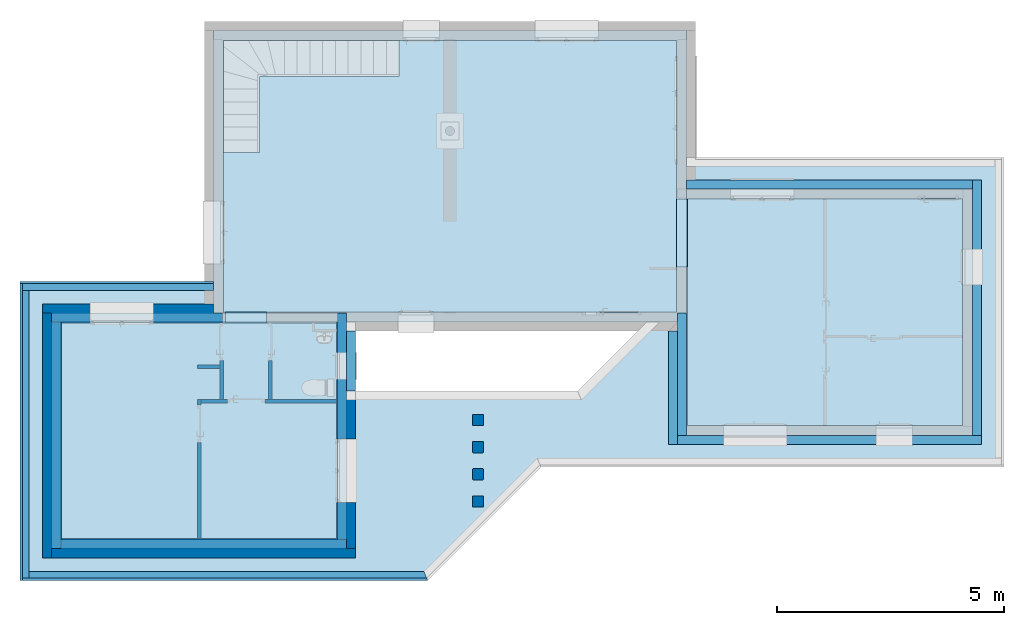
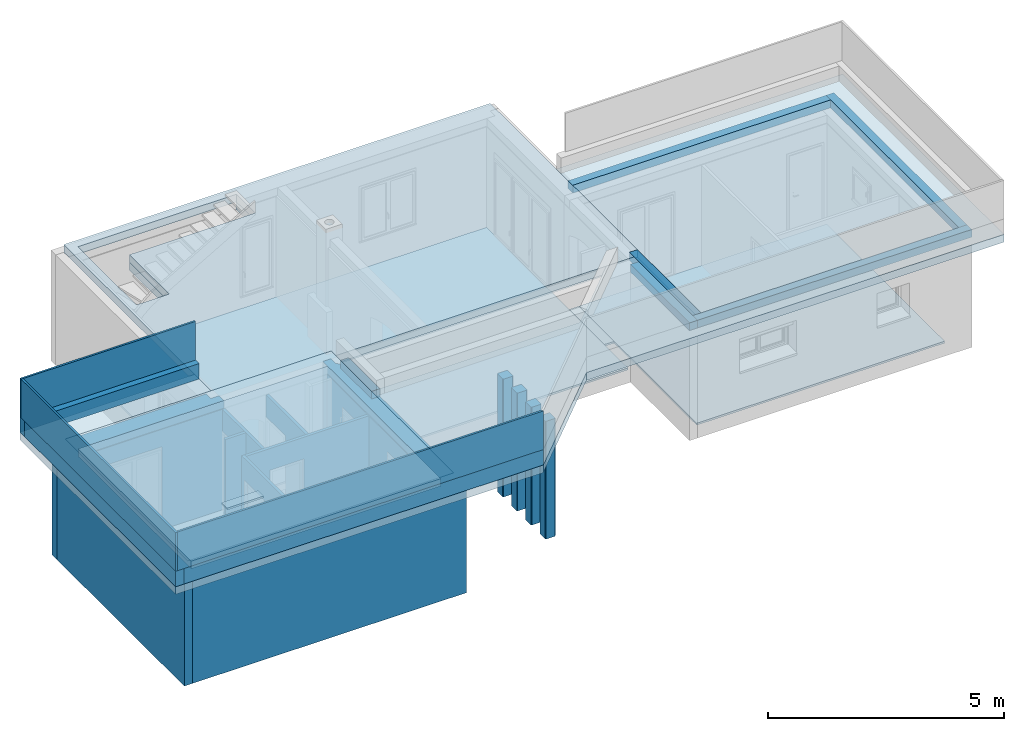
# One storey, part 1 of 16: 18 slabs, 15 walls, 4 columns, 10 openings.
"""IFC4 building model written with IfcOpenShell, lengths in metres."""

from ifc_helpers import new_model, entity, si_unit, converted_unit, frame, frame_2d, origin, origin_with_axes, place, context, subcontext, project, spatial, polyline, rectangle, outline, extrude, clip, bounded_halfspace, material, layer, layer_set, layer_usage, element, save


model = new_model("IFC4")

# Units and contexts
model_context = context("Model", 3, precision=1e-05, world=origin())
body_context = subcontext(model_context, "Body", "Model", "MODEL_VIEW")
ifc_project = project(units=[si_unit("LENGTHUNIT", "METRE"), si_unit("AREAUNIT", "SQUARE_METRE"), si_unit("VOLUMEUNIT", "CUBIC_METRE"), si_unit("MASSUNIT", "GRAM", prefix="KILO"), converted_unit("PLANEANGLEUNIT", "DEGREE", entity("IfcPlaneAngleMeasure", 0.0174532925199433), si_unit("PLANEANGLEUNIT", "RADIAN"), dimensions=[0, 0, 0, 0, 0, 0, 0])], contexts=[model_context])

# Building, storey
building_placement = place(None, origin())
building = spatial("IfcBuilding", under=ifc_project, at=building_placement, Name="Projet de Construction", CompositionType="ELEMENT")
storey_placement = place(building_placement, frame((0.0, 0.0, -0.05)))
storey = spatial("IfcBuildingStorey", under=building, at=storey_placement, Name="RDC", CompositionType="ELEMENT", Elevation=-0.05)

# Columns
ifc_material_1 = material()
column_1_placement = place(storey_placement, frame((-1.3709375, -1.98316848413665, -0.2)))
element("IfcColumn", 1, at=column_1_placement, inside=storey, material=ifc_material_1, PredefinedType="COLUMN", context=body_context, shape_type="SweptSolid", body=[
    extrude(outline(polyline([(0.015, 0.0), (0.235, 0.0), (0.25, 0.015), (0.25, 0.235), (0.235, 0.25), (0.015, 0.25), (0.0, 0.235), (0.0, 0.015), (0.015, 0.0)])), origin_with_axes(), (0.0, 0.0, 1.0), 3.05),
])
ifc_material_2 = material()
column_2_placement = place(storey_placement, frame((-1.3709375, -1.38316848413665, -0.2)))
element("IfcColumn", 2, at=column_2_placement, inside=storey, material=ifc_material_2, PredefinedType="COLUMN", context=body_context, shape_type="SweptSolid", body=[
    extrude(outline(polyline([(0.015, 0.0), (0.235, 0.0), (0.25, 0.015), (0.25, 0.235), (0.235, 0.25), (0.015, 0.25), (0.0, 0.235), (0.0, 0.015), (0.015, 0.0)])), origin_with_axes(), (0.0, 0.0, 1.0), 3.05),
])
ifc_material_3 = material()
column_3_placement = place(storey_placement, frame((-1.3709375, -0.78316848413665, -0.2)))
element("IfcColumn", 3, at=column_3_placement, inside=storey, material=ifc_material_3, PredefinedType="COLUMN", context=body_context, shape_type="SweptSolid", body=[
    extrude(outline(polyline([(0.015, 0.0), (0.235, 0.0), (0.25, 0.015), (0.25, 0.235), (0.235, 0.25), (0.015, 0.25), (0.0, 0.235), (0.0, 0.015), (0.015, 0.0)])), origin_with_axes(), (0.0, 0.0, 1.0), 3.05),
])
ifc_material_4 = material()
column_4_placement = place(storey_placement, frame((-1.3709375, -2.58316848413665, -0.2)))
element("IfcColumn", 4, at=column_4_placement, inside=storey, material=ifc_material_4, PredefinedType="COLUMN", context=body_context, shape_type="SweptSolid", body=[
    extrude(outline(polyline([(0.015, 0.0), (0.235, 0.0), (0.25, 0.015), (0.25, 0.235), (0.235, 0.25), (0.015, 0.25), (0.0, 0.235), (0.0, 0.015), (0.015, 0.0)])), origin_with_axes(), (0.0, 0.0, 1.0), 3.05),
])

# Slabs
ifc_material_5 = material()
slab_1_placement = place(storey_placement, frame((3.3540625, -0.800208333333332, 2.65)))
element("IfcSlab", 5, at=slab_1_placement, inside=storey, material=ifc_material_5, PredefinedType="FLOOR", context=body_context, shape_type="SweptSolid", body=[
    extrude(rectangle(XDim=5.04, YDim=6.11, at=frame_2d((3.055, -2.52), x_axis=(0.0, -1.0))), frame((0.0, 5.04, 0.0), z_axis=(0.0, 0.0, 1.0), x_axis=(1.0, 0.0, 0.0)), (0.0, 0.0, 1.0), 0.2),
])
ifc_material_6 = material()
slab_2_placement = place(storey_placement, frame((-10.4559375, -3.30020833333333, 2.65)))
element("IfcSlab", 6, at=slab_2_placement, inside=storey, material=ifc_material_6, PredefinedType="FLOOR", context=body_context, shape_type="SweptSolid", body=[
    extrude(rectangle(XDim=4.8, YDim=6.11, at=frame_2d((3.055, -2.4), x_axis=(0.0, -1.0))), frame((0.0, 4.8, 0.0), z_axis=(0.0, 0.0, 1.0), x_axis=(1.0, 0.0, 0.0)), (0.0, 0.0, 1.0), 0.2),
])

# Slab, openings
ifc_material_7 = material()
slab_3_placement = place(storey_placement, frame((-6.8859375, 1.69979166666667, 2.65)))
slab_3 = element("IfcSlab", 7, at=slab_3_placement, inside=storey, material=ifc_material_7, PredefinedType="FLOOR", context=body_context, shape_type="SweptSolid", body=[
    extrude(rectangle(XDim=6.04, YDim=10.04, at=frame_2d((5.02, -3.02), x_axis=(0.0, -1.0))), frame((0.0, 6.04, 0.0), z_axis=(0.0, 0.0, 1.0), x_axis=(1.0, 0.0, 0.0)), (0.0, 0.0, 1.0), 0.2),
])
opening_1_placement = place(slab_3_placement, frame((0.819999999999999, 5.22, 0.0)))
element("IfcOpeningStandardCase", 8, at=opening_1_placement, cuts=slab_3, Name="Trémie dans dalle", PredefinedType="OPENING", context=body_context, shape_type="SweptSolid", body=[
    extrude(rectangle(XDim=0.819999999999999, YDim=3.08, at=frame_2d((-4.54747350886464e-16, 4.54747350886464e-16), x_axis=(-1.10913988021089e-15, -1.0))), frame((1.54, 0.409999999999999, 0.0), z_axis=(0.0, 0.0, 1.0), x_axis=(1.0, 0.0, 0.0)), (0.0, 0.0, 1.0), 0.2),
])
opening_2_placement = place(slab_3_placement, frame((0.0, 3.54, 0.0)))
element("IfcOpeningStandardCase", 9, at=opening_2_placement, cuts=slab_3, Name="Trémie dans dalle", PredefinedType="OPENING", context=body_context, shape_type="SweptSolid", body=[
    extrude(rectangle(XDim=2.5, YDim=0.819999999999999, at=frame_2d((0.0, 4.54747350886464e-16), x_axis=(-3.63797880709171e-16, -1.0))), frame((0.41, 1.25, 0.0), z_axis=(0.0, 0.0, 1.0), x_axis=(1.0, 0.0, 0.0)), (0.0, 0.0, 1.0), 0.2),
])

# Slabs
ifc_material_8 = material()
slab_4_placement = place(storey_placement, frame((-11.3559375, -4.20020833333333, 2.85)))
element("IfcSlab", 10, at=slab_4_placement, inside=storey, material=ifc_material_8, PredefinedType="FLOOR", context=body_context, shape_type="SweptSolid", body=[
    extrude(outline(polyline([(4.27, 5.9), (4.27, 6.6), (0.0, 6.6), (0.0, 0.0), (8.99940395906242, 0.0), (11.4994039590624, 2.5), (21.72, 2.5), (21.72, 9.34), (14.71, 9.34), (14.71, 8.64), (21.02, 8.64), (21.02, 3.2), (14.51, 3.2), (14.51, 5.7), (13.8327803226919, 5.7), (12.31, 4.17721967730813), (7.21, 4.17721967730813), (7.21, 0.700000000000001), (0.699999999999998, 0.700000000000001), (0.7, 5.9), (4.27, 5.9)])), origin_with_axes(), (0.0, 0.0, 1.0), 0.2),
])
ifc_material_9 = material()
slab_5_placement = place(storey_placement, frame((9.6640625, -1.00020833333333, 2.85)))
element("IfcSlab", 11, at=slab_5_placement, inside=storey, material=ifc_material_9, PredefinedType="FLOOR", context=body_context, shape_type="SweptSolid", body=[
    extrude(rectangle(XDim=5.64, YDim=0.2, at=frame_2d((-0.1, 2.82), x_axis=(0.0, 1.0))), frame((0.2, 0.0, 0.0), z_axis=(0.0, 0.0, 1.0), x_axis=(1.0, 0.0, 0.0)), (0.0, 0.0, 1.0), 0.2),
])
ifc_material_10 = material()
slab_6_placement = place(storey_placement, frame((3.1540625, -1.20020833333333, 2.85)))
element("IfcSlab", 12, at=slab_6_placement, inside=storey, material=ifc_material_10, PredefinedType="FLOOR", context=body_context, shape_type="SweptSolid", body=[
    extrude(rectangle(XDim=6.71, YDim=0.200000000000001, at=frame_2d((3.355, 0.1), x_axis=(1.0, 0.0))), origin_with_axes(), (0.0, 0.0, 1.0), 0.2),
])
ifc_material_11 = material()
slab_7_placement = place(storey_placement, frame((-4.1459375, -0.0229886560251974, 2.85)))
element("IfcSlab", 13, at=slab_7_placement, inside=storey, material=ifc_material_11, PredefinedType="FLOOR", context=body_context, shape_type="SweptSolid", body=[
    extrude(rectangle(XDim=1.32278032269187, YDim=0.2, at=frame_2d((-0.0999999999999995, 0.661390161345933), x_axis=(0.0, 1.0))), frame((0.2, 0.0, 0.0), z_axis=(0.0, 0.0, 1.0), x_axis=(1.0, 0.0, 0.0)), (0.0, 0.0, 1.0), 0.2),
])
ifc_material_12 = material()
slab_8_placement = place(storey_placement, frame((2.9540625, -1.20020833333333, 2.85)))
element("IfcSlab", 14, at=slab_8_placement, inside=storey, material=ifc_material_12, PredefinedType="FLOOR", context=body_context, shape_type="SweptSolid", body=[
    extrude(rectangle(XDim=0.2, YDim=2.5, at=frame_2d((-0.1, -1.25), x_axis=(-1.0, 0.0))), frame((0.2, 2.5, 0.0), z_axis=(0.0, 0.0, 1.0), x_axis=(1.0, 0.0, 0.0)), (0.0, 0.0, 1.0), 0.2),
])
ifc_material_13 = material()
slab_9_placement = place(storey_placement, frame((3.1540625, -1.00020833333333, 2.85)))
element("IfcSlab", 15, at=slab_9_placement, inside=storey, material=ifc_material_13, PredefinedType="FLOOR", context=body_context, shape_type="SweptSolid", body=[
    extrude(rectangle(XDim=0.2, YDim=2.7, at=frame_2d((-0.1, -1.35), x_axis=(-1.0, 0.0))), frame((0.2, 2.7, 0.0), z_axis=(0.0, 0.0, 1.0), x_axis=(1.0, 0.0, 0.0)), (0.0, 0.0, 1.0), 0.2),
])
ifc_material_14 = material()
slab_10_placement = place(storey_placement, frame((-10.6559375, -3.50020833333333, 2.85)))
element("IfcSlab", 16, at=slab_10_placement, inside=storey, material=ifc_material_14, PredefinedType="FLOOR", context=body_context, shape_type="SweptSolid", body=[
    extrude(rectangle(XDim=5.2, YDim=6.51, at=frame_2d((3.255, -2.6), x_axis=(-3.49805654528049e-16, -1.0))), frame((1.81898940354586e-15, 5.2, 0.0), z_axis=(0.0, 0.0, 1.0), x_axis=(1.0, 0.0, 0.0)), (0.0, 0.0, 1.0), 0.2),
])
ifc_material_15 = material()
slab_11_placement = place(storey_placement, frame((3.3540625, 4.43979166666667, 2.85)))
element("IfcSlab", 17, at=slab_11_placement, inside=storey, material=ifc_material_15, PredefinedType="FLOOR", context=body_context, shape_type="SweptSolid", body=[
    extrude(rectangle(XDim=6.31, YDim=0.199999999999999, at=frame_2d((-3.155, -0.1), x_axis=(-1.0, 0.0))), frame((6.31, 0.199999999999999, 0.0), z_axis=(0.0, 0.0, 1.0), x_axis=(1.0, 0.0, 0.0)), (0.0, 0.0, 1.0), 0.2),
])
ifc_material_16 = material()
slab_12_placement = place(storey_placement, frame((3.3540625, -1.00020833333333, 2.85)))
element("IfcSlab", 18, at=slab_12_placement, inside=storey, material=ifc_material_16, PredefinedType="FLOOR", context=body_context, shape_type="SweptSolid", body=[
    extrude(rectangle(XDim=5.44, YDim=6.31, at=frame_2d((3.155, -2.72), x_axis=(0.0, -1.0))), frame((0.0, 5.44, 0.0), z_axis=(0.0, 0.0, 1.0), x_axis=(1.0, 0.0, 0.0)), (0.0, 0.0, 1.0), 0.2),
])

# Slab, opening
ifc_material_17 = material()
slab_13_placement = place(storey_placement, frame((-7.0859375, 1.49979166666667, 2.85)))
slab_13 = element("IfcSlab", 19, at=slab_13_placement, inside=storey, material=ifc_material_17, PredefinedType="FLOOR", context=body_context, shape_type="SweptSolid", body=[
    extrude(outline(polyline([(0.0, 0.2), (2.94, 0.199999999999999), (2.94, 4.54747350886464e-16), (10.24, 0.0), (10.24, 0.2), (10.44, 0.2), (10.44, 6.44), (0.0, 6.44), (0.0, 0.2)])), origin_with_axes(), (0.0, 0.0, 1.0), 0.2),
])
opening_3_placement = place(slab_13_placement, frame((0.219999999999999, 3.74, 0.0)))
element("IfcOpeningStandardCase", 20, at=opening_3_placement, cuts=slab_13, Name="Trémie dans dalle", PredefinedType="OPENING", context=body_context, shape_type="SweptSolid", body=[
    extrude(outline(polyline([(-1.56, 1.09333333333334), (-1.56, -1.38666666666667), (-0.759999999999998, -1.38666666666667), (-0.759999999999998, 0.293333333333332), (2.32, 0.293333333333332), (2.32, 1.09333333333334), (-1.56, 1.09333333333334)])), frame((1.56, 1.38666666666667, 0.0), z_axis=(1.15260231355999e-16, -2.11310424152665e-16, 1.0), x_axis=(1.0, 0.0, 0.0)), (0.0, 2.11310424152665e-16, 1.0), 0.2),
])

# Slabs
ifc_material_18 = material()
slab_14_placement = place(storey_placement, frame((3.1340625, 2.71979166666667, 0.0)))
element("IfcSlab", 21, at=slab_14_placement, inside=storey, material=ifc_material_18, PredefinedType="FLOOR", context=body_context, shape_type="SweptSolid", body=[
    extrude(rectangle(XDim=0.24, YDim=1.5, at=frame_2d((-0.12, -0.75), x_axis=(-1.0, 0.0))), frame((0.24, 1.5, 0.0), z_axis=(0.0, 0.0, 1.0), x_axis=(1.0, 0.0, 0.0)), (0.0, 0.0, 1.0), 0.05),
])
ifc_material_19 = material()
slab_15_placement = place(storey_placement, frame((3.3740625, -0.780208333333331, 0.0)))
element("IfcSlab", 22, at=slab_15_placement, inside=storey, material=ifc_material_19, PredefinedType="FLOOR", context=body_context, shape_type="SweptSolid", body=[
    extrude(rectangle(XDim=5.0, YDim=6.07, at=frame_2d((3.035, -2.5), x_axis=(0.0, -1.0))), frame((0.0, 5.0, 0.0), z_axis=(0.0, 0.0, 1.0), x_axis=(1.0, 0.0, 0.0)), (0.0, 0.0, 1.0), 0.05),
])
ifc_material_20 = material()
slab_16_placement = place(storey_placement, frame((-6.8159375, 1.47979166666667, 0.0)))
element("IfcSlab", 23, at=slab_16_placement, inside=storey, material=ifc_material_20, PredefinedType="FLOOR", context=body_context, shape_type="SweptSolid", body=[
    extrude(rectangle(XDim=0.24, YDim=0.9, at=frame_2d((0.45, -0.12), x_axis=(0.0, -1.0))), frame((0.0, 0.24, 0.0), z_axis=(0.0, 0.0, 1.0), x_axis=(1.0, 0.0, 0.0)), (0.0, 0.0, 1.0), 0.05),
])
ifc_material_21 = material()
slab_17_placement = place(storey_placement, frame((-6.8659375, 1.71979166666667, 0.0)))
element("IfcSlab", 24, at=slab_17_placement, inside=storey, material=ifc_material_21, PredefinedType="FLOOR", context=body_context, shape_type="SweptSolid", body=[
    extrude(rectangle(XDim=6.0, YDim=10.0, at=frame_2d((5.0, -3.0), x_axis=(0.0, -1.0))), frame((0.0, 6.0, 0.0), z_axis=(0.0, 0.0, 1.0), x_axis=(1.0, 0.0, 0.0)), (0.0, 0.0, 1.0), 0.05),
])
ifc_material_22 = material()
slab_18_placement = place(storey_placement, frame((-10.4359375, -3.28020833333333, 0.0)))
element("IfcSlab", 25, at=slab_18_placement, inside=storey, material=ifc_material_22, PredefinedType="FLOOR", context=body_context, shape_type="SweptSolid", body=[
    extrude(rectangle(XDim=4.76, YDim=6.07, at=frame_2d((3.035, -2.38), x_axis=(0.0, -1.0))), frame((0.0, 4.76, 0.0), z_axis=(0.0, 0.0, 1.0), x_axis=(1.0, 0.0, 0.0)), (0.0, 0.0, 1.0), 0.05),
])

# Wall, opening
ifc_material_23 = material()
ifc_layer_1 = layer(ifc_material_23, 0.200000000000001)
ifc_material_24 = material()
ifc_layer_2 = layer(ifc_material_24, 0.2)
ifc_material_25 = material()
ifc_layer_3 = layer(ifc_material_25, 0.0199999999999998)
ifc_layer_set_1 = layer_set([ifc_layer_1, ifc_layer_2, ifc_layer_3])
ifc_layer_usage_1 = layer_usage(ifc_layer_set_1, "AXIS2", "POSITIVE", 0.0)
wall_1_placement = place(storey_placement, frame((-7.0859375, 1.89979166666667, 0.0), z_axis=(0.0, 0.0, 1.0), x_axis=(-1.0, 1.20622639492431e-16, 0.0)))
wall_1 = element("IfcWall", 26, at=wall_1_placement, inside=storey, material=ifc_layer_usage_1, context=body_context, shape_type="Clipping", body=[
    clip(clip(extrude(outline(polyline([(-3.97, -0.220000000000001), (-3.77, -0.22), (-3.77, -0.420000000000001), (5.06615085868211e-17, -0.420000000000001), (2.65369806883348e-17, -0.22), (-0.2, -0.220000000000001), (-0.2, -0.0200000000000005), (-0.4, -0.0200000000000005), (-0.4, -5.02996406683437e-16), (-3.99, -4.81284331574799e-16), (-3.97, -0.0200000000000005), (-3.97, -0.220000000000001)])), frame((3.77, 0.420000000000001, 0.0), z_axis=(0.0, 0.0, 1.0), x_axis=(1.0, 0.0, 0.0)), (0.0, 0.0, 1.0), 2.85), bounded_halfspace(frame((1.58, 0.410000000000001, 0.05), z_axis=(0.0, 0.0, 1.0), x_axis=(0.707106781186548, -0.707106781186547, 0.0)), True, origin_with_axes(), polyline([(-0.22, 0.420000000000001), (-0.2, 0.400000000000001), (3.37, 0.400000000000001), (3.37, 0.420000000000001), (-0.22, 0.420000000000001)]))), bounded_halfspace(frame((1.58, 0.410000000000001, 2.65), z_axis=(0.0, 0.0, -1.0), x_axis=(1.0, -6.75757083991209e-18, 0.0)), True, origin_with_axes(), polyline([(-0.2, 0.400000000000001), (3.37, 0.400000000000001), (3.37, 0.420000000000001), (-0.22, 0.420000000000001), (-0.2, 0.400000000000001)]))),
])
opening_4_placement = place(wall_1_placement, frame((2.725, 0.200000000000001, 0.05), z_axis=(0.0, -1.0, 0.0), x_axis=(0.0, 0.0, 1.0)))
element("IfcOpeningStandardCase", 27, at=opening_4_placement, cuts=wall_1, Name="Baie de porte", PredefinedType="OPENING", context=body_context, shape_type="SweptSolid", body=[
    extrude(outline(polyline([(0.0, 1.4), (2.15, 1.4), (2.15, 0.0), (0.0, 0.0), (0.0, 1.4)])), origin_with_axes(), (0.0, 0.0, 1.0), 0.200000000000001),
    extrude(outline(polyline([(0.0, 1.4), (2.15, 1.4), (2.15, 0.0), (0.0, 0.0), (0.0, 1.4)])), frame((0.0, 3.24819536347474e-17, -0.2), z_axis=(0.0, 0.0, 1.0), x_axis=(1.0, 0.0, 0.0)), (0.0, 0.0, 1.0), 0.2),
    extrude(outline(polyline([(0.0, 1.4), (2.15, 1.4), (2.15, 0.0), (0.0, 0.0), (0.0, 1.4)])), frame((0.0, 3.57301489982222e-17, -0.22), z_axis=(0.0, 0.0, 1.0), x_axis=(1.0, 0.0, 0.0)), (0.0, 0.0, 1.0), 0.02),
])

# Walls
ifc_material_26 = material()
ifc_layer_4 = layer(ifc_material_26, 0.200000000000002)
ifc_material_27 = material()
ifc_layer_5 = layer(ifc_material_27, 0.2)
ifc_material_28 = material()
ifc_layer_6 = layer(ifc_material_28, 0.0199999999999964)
ifc_layer_set_2 = layer_set([ifc_layer_4, ifc_layer_5, ifc_layer_6])
ifc_layer_usage_2 = layer_usage(ifc_layer_set_2, "AXIS2", "POSITIVE", 0.0)
wall_2_placement = place(storey_placement, frame((-10.8559375, 1.69979166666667, 0.0), z_axis=(0.0, 0.0, 1.0), x_axis=(-3.36849889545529e-16, -1.0, 0.0)))
element("IfcWall", 28, at=wall_2_placement, inside=storey, material=ifc_layer_usage_2, context=body_context, shape_type="Clipping", body=[
    clip(clip(extrude(outline(polyline([(-5.4, 0.0), (0.0, 0.0), (-6.73699779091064e-17, 0.200000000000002), (-0.200000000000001, 0.200000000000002), (-0.200000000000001, 0.400000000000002), (-0.400000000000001, 0.400000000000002), (-0.400000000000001, 0.420000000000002), (-5.18, 0.42), (-5.18, 0.4), (-5.2, 0.4), (-5.2, 0.2), (-5.4, 0.2), (-5.4, 0.0)])), frame((5.4, 0.0, 0.0), z_axis=(0.0, 0.0, 1.0), x_axis=(1.0, 0.0, 0.0)), (0.0, 0.0, 1.0), 2.85), bounded_halfspace(frame((2.61, 0.410000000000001, 0.05), z_axis=(0.0, 0.0, 1.0), x_axis=(3.36849889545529e-16, -1.0, 0.0)), True, origin_with_axes(), polyline([(0.22, 0.42), (0.22, 0.4), (5.0, 0.400000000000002), (5.0, 0.420000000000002), (0.22, 0.42)]))), bounded_halfspace(frame((2.61, 0.410000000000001, 2.65), z_axis=(0.0, 0.0, -1.0), x_axis=(1.0, 3.36849889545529e-16, 0.0)), True, origin_with_axes(), polyline([(0.22, 0.4), (5.0, 0.400000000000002), (5.0, 0.420000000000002), (0.22, 0.42), (0.22, 0.4)]))),
])
ifc_material_29 = material()
ifc_layer_7 = layer(ifc_material_29, 0.200000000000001)
ifc_material_30 = material()
ifc_layer_8 = layer(ifc_material_30, 0.2)
ifc_material_31 = material()
ifc_layer_9 = layer(ifc_material_31, 0.02)
ifc_layer_set_3 = layer_set([ifc_layer_7, ifc_layer_8, ifc_layer_9])
ifc_layer_usage_3 = layer_usage(ifc_layer_set_3, "AXIS2", "POSITIVE", 0.0)
wall_3_placement = place(storey_placement, frame((-10.6559375, -3.70020833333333, 0.0)))
element("IfcWall", 29, at=wall_3_placement, inside=storey, material=ifc_layer_usage_3, context=body_context, shape_type="Clipping", body=[
    clip(clip(extrude(outline(polyline([(0.0, 0.0), (6.71, 0.0), (6.71, 0.200000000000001), (6.51, 0.200000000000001), (6.51, 0.400000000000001), (6.31, 0.400000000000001), (6.31, 0.420000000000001), (0.22, 0.420000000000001), (0.22, 0.400000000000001), (0.2, 0.400000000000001), (0.2, 0.200000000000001), (0.0, 0.200000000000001), (0.0, 0.0)])), origin_with_axes(), (0.0, 0.0, 1.0), 2.85), bounded_halfspace(frame((3.265, 0.41, 0.05), z_axis=(0.0, 0.0, 1.0), x_axis=(0.0, -1.0, 0.0)), True, origin_with_axes(), polyline([(0.22, 0.42), (0.22, 0.4), (6.31, 0.4), (6.31, 0.42), (0.22, 0.42)]))), bounded_halfspace(frame((3.265, 0.41, 2.65), z_axis=(0.0, 0.0, -1.0), x_axis=(1.0, 0.0, 0.0)), True, origin_with_axes(), polyline([(0.22, 0.4), (6.31, 0.4), (6.31, 0.42), (0.22, 0.42), (0.22, 0.4)]))),
])

# Wall, openings
ifc_material_32 = material()
ifc_layer_10 = layer(ifc_material_32, 0.200000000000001)
ifc_material_33 = material()
ifc_layer_11 = layer(ifc_material_33, 0.2)
ifc_material_34 = material()
ifc_layer_12 = layer(ifc_material_34, 0.02)
ifc_layer_set_4 = layer_set([ifc_layer_10, ifc_layer_11, ifc_layer_12])
ifc_layer_usage_4 = layer_usage(ifc_layer_set_4, "AXIS2", "POSITIVE", 0.0)
wall_4_placement = place(storey_placement, frame((-3.9459375, -3.50020833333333, 0.0), z_axis=(0.0, 0.0, 1.0), x_axis=(3.7895612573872e-16, 1.0, 0.0)))
wall_4 = element("IfcWall", 30, at=wall_4_placement, inside=storey, material=ifc_layer_usage_4, context=body_context, shape_type="Clipping", body=[
    clip(clip(extrude(outline(polyline([(1.59161572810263e-16, -0.420000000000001), (4.8, -0.420000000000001), (5.0, -0.219999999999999), (5.2, -0.219999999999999), (5.2, -0.0199999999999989), (5.0, -0.019999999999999), (5.0, 9.85285926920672e-16), (0.22, 8.33703476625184e-17), (0.22, -0.0199999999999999), (0.2, -0.0199999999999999), (0.2, -0.22), (8.33703476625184e-17, -0.22), (1.59161572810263e-16, -0.420000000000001)])), frame((-1.59161572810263e-16, 0.420000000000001, 0.0), z_axis=(0.0, 0.0, 1.0), x_axis=(1.0, 0.0, 0.0)), (0.0, 0.0, 1.0), 2.85), bounded_halfspace(frame((2.61, 0.410000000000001, 0.05), z_axis=(0.0, 0.0, 1.0), x_axis=(3.7895612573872e-16, -1.0, 0.0)), True, origin_with_axes(), polyline([(0.219999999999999, 0.420000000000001), (0.219999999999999, 0.400000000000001), (5.0, 0.400000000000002), (5.0, 0.420000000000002), (0.219999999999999, 0.420000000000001)]))), bounded_halfspace(frame((2.61, 0.410000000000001, 2.65), z_axis=(0.0, 0.0, -1.0), x_axis=(1.0, 1.88685267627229e-16, 0.0)), True, origin_with_axes(), polyline([(0.219999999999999, 0.400000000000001), (5.0, 0.400000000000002), (5.0, 0.420000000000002), (0.219999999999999, 0.420000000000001), (0.219999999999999, 0.400000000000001)]))),
])
opening_5_placement = place(wall_4_placement, frame((2.42, 0.200000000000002, 0.75), z_axis=(0.0, -1.0, 0.0), x_axis=(0.0, 0.0, 1.0)))
element("IfcOpeningStandardCase", 31, at=opening_5_placement, cuts=wall_4, Name="Baie de fenêtre", PredefinedType="OPENING", context=body_context, shape_type="SweptSolid", body=[
    extrude(outline(polyline([(0.0, 1.4), (1.45, 1.4), (1.45, 0.0), (0.0, 0.0), (0.0, 1.4)])), origin_with_axes(), (0.0, 0.0, 1.0), 0.200000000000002),
    extrude(outline(polyline([(0.0, 1.4), (1.45, 1.4), (1.45, 0.0), (0.0, 0.0), (0.0, 1.4)])), frame((0.0, 0.0, -0.2), z_axis=(0.0, 0.0, 1.0), x_axis=(1.0, 0.0, 0.0)), (0.0, 0.0, 1.0), 0.2),
    extrude(outline(polyline([(0.0, 1.4), (1.45, 1.4), (1.45, 0.0), (0.0, 0.0), (0.0, 1.4)])), frame((0.0, 0.0, -0.22), z_axis=(0.0, 0.0, 1.0), x_axis=(1.0, 0.0, 0.0)), (0.0, 0.0, 1.0), 0.02),
])
opening_6_placement = place(wall_4_placement, frame((4.335, 0.200000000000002, 1.35), z_axis=(0.0, -1.0, 0.0), x_axis=(0.0, 0.0, 1.0)))
element("IfcOpeningStandardCase", 32, at=opening_6_placement, cuts=wall_4, Name="Baie de fenêtre", PredefinedType="OPENING", context=body_context, shape_type="SweptSolid", body=[
    extrude(outline(polyline([(0.0, 0.6), (0.85, 0.6), (0.85, 0.0), (0.0, 0.0), (0.0, 0.6)])), origin_with_axes(), (0.0, 0.0, 1.0), 0.200000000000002),
    extrude(outline(polyline([(0.0, 0.6), (0.85, 0.6), (0.85, 0.0), (0.0, 0.0), (0.0, 0.6)])), frame((0.0, 0.0, -0.2), z_axis=(0.0, 0.0, 1.0), x_axis=(1.0, 0.0, 0.0)), (0.0, 0.0, 1.0), 0.2),
    extrude(outline(polyline([(0.0, 0.6), (0.85, 0.6), (0.85, 0.0), (0.0, 0.0), (0.0, 0.6)])), frame((0.0, 0.0, -0.22), z_axis=(0.0, 0.0, 1.0), x_axis=(1.0, 0.0, 0.0)), (0.0, 0.0, 1.0), 0.02),
])

# Wall, opening
ifc_material_35 = material()
ifc_layer_13 = layer(ifc_material_35, 0.07)
ifc_layer_set_5 = layer_set([ifc_layer_13])
ifc_layer_usage_5 = layer_usage(ifc_layer_set_5, "AXIS2", "POSITIVE", 0.0)
wall_5_placement = place(storey_placement, frame((-7.4359375, -0.210208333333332, 0.05), z_axis=(0.0, 0.0, 1.0), x_axis=(0.0, -1.0, 0.0)))
wall_5 = element("IfcWall", 33, at=wall_5_placement, inside=storey, material=ifc_layer_usage_5, context=body_context, shape_type="SweptSolid", body=[
    extrude(rectangle(XDim=3.07, YDim=0.07, at=frame_2d((1.535, 0.035), x_axis=(1.0, 0.0))), origin_with_axes(), (0.0, 0.0, 1.0), 2.6),
])
opening_7_placement = place(wall_5_placement, frame((0.12, 0.0, 0.0), z_axis=(0.0, 1.0, 0.0), x_axis=(0.0, 0.0, 1.0)))
element("IfcOpeningStandardCase", 34, at=opening_7_placement, cuts=wall_5, Name="Baie de porte", PredefinedType="OPENING", context=body_context, shape_type="SweptSolid", body=[
    extrude(outline(polyline([(0.0, 0.83), (2.04, 0.83), (2.04, 0.0), (0.0, 0.0), (0.0, 0.83)])), origin_with_axes(), (0.0, 0.0, 1.0), 0.07),
])

ifc_material_36 = material()
ifc_layer_14 = layer(ifc_material_36, 0.07)
ifc_layer_set_6 = layer_set([ifc_layer_14])
ifc_layer_usage_6 = layer_usage(ifc_layer_set_6, "AXIS2", "POSITIVE", 0.0)
wall_6_placement = place(storey_placement, frame((-4.3659375, -0.210208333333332, 0.05), z_axis=(0.0, 0.0, 1.0), x_axis=(-1.0, 0.0, 0.0)))
wall_6 = element("IfcWall", 35, at=wall_6_placement, inside=storey, material=ifc_layer_usage_6, context=body_context, shape_type="SweptSolid", body=[
    extrude(rectangle(XDim=3.0, YDim=0.07, at=frame_2d((1.5, 0.035), x_axis=(1.0, 0.0))), origin_with_axes(), (0.0, 0.0, 1.0), 2.6),
])
opening_8_placement = place(wall_6_placement, frame((1.585, 0.0, 0.0), z_axis=(0.0, 1.0, 0.0), x_axis=(0.0, 0.0, 1.0)))
element("IfcOpeningStandardCase", 36, at=opening_8_placement, cuts=wall_6, Name="Baie de porte", PredefinedType="OPENING", context=body_context, shape_type="SweptSolid", body=[
    extrude(outline(polyline([(0.0, 0.83), (2.04, 0.83), (2.04, 0.0), (0.0, 0.0), (0.0, 0.83)])), origin_with_axes(), (0.0, 0.0, 1.0), 0.07),
])

# Wall
ifc_material_37 = material()
ifc_layer_15 = layer(ifc_material_37, 0.07)
ifc_layer_set_7 = layer_set([ifc_layer_15])
ifc_layer_usage_7 = layer_usage(ifc_layer_set_7, "AXIS2", "POSITIVE", 0.0)
wall_7_placement = place(storey_placement, frame((-6.9359375, 0.549791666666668, 0.05), z_axis=(0.0, 0.0, 1.0), x_axis=(-1.0, 0.0, 0.0)))
element("IfcWall", 37, at=wall_7_placement, inside=storey, material=ifc_layer_usage_7, context=body_context, shape_type="SweptSolid", body=[
    extrude(rectangle(XDim=0.5, YDim=0.07, at=frame_2d((0.25, 0.035), x_axis=(1.0, 0.0))), origin_with_axes(), (0.0, 0.0, 1.0), 2.6),
])

# Wall, opening
ifc_material_38 = material()
ifc_layer_16 = layer(ifc_material_38, 0.07)
ifc_layer_set_8 = layer_set([ifc_layer_16])
ifc_layer_usage_8 = layer_usage(ifc_layer_set_8, "AXIS2", "POSITIVE", 0.0)
wall_8_placement = place(storey_placement, frame((-5.8659375, 1.47979166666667, 0.05), z_axis=(0.0, 0.0, 1.0), x_axis=(0.0, -1.0, 0.0)))
wall_8 = element("IfcWall", 38, at=wall_8_placement, inside=storey, material=ifc_layer_usage_8, context=body_context, shape_type="SweptSolid", body=[
    extrude(rectangle(XDim=1.69, YDim=0.07, at=frame_2d((0.845, 0.035), x_axis=(1.0, 0.0))), origin_with_axes(), (0.0, 0.0, 1.0), 2.6),
])
opening_9_placement = place(wall_8_placement, frame((0.0, 0.0, 0.0), z_axis=(0.0, 1.0, 0.0), x_axis=(0.0, 0.0, 1.0)))
element("IfcOpeningStandardCase", 39, at=opening_9_placement, cuts=wall_8, Name="Baie de porte", PredefinedType="OPENING", context=body_context, shape_type="SweptSolid", body=[
    extrude(outline(polyline([(0.0, 0.83), (2.04, 0.83), (2.04, 0.0), (0.0, 0.0), (0.0, 0.83)])), origin_with_axes(), (0.0, 0.0, 1.0), 0.07),
])

ifc_material_39 = material()
ifc_layer_17 = layer(ifc_material_39, 0.07)
ifc_layer_set_9 = layer_set([ifc_layer_17])
ifc_layer_usage_9 = layer_usage(ifc_layer_set_9, "AXIS2", "POSITIVE", 0.0)
wall_9_placement = place(storey_placement, frame((-6.8659375, -0.210208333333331, 0.05), z_axis=(0.0, 0.0, 1.0), x_axis=(-5.38162545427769e-16, 1.0, 0.0)))
wall_9 = element("IfcWall", 40, at=wall_9_placement, inside=storey, material=ifc_layer_usage_9, context=body_context, shape_type="SweptSolid", body=[
    extrude(rectangle(XDim=1.69, YDim=0.07, at=frame_2d((0.844999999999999, 0.035), x_axis=(1.0, 0.0))), origin_with_axes(), (0.0, 0.0, 1.0), 2.6),
])
opening_10_placement = place(wall_9_placement, frame((1.69, 0.07, 0.0), z_axis=(0.0, -1.0, 0.0), x_axis=(0.0, 0.0, 1.0)))
element("IfcOpeningStandardCase", 41, at=opening_10_placement, cuts=wall_9, Name="Baie de porte", PredefinedType="OPENING", context=body_context, shape_type="SweptSolid", body=[
    extrude(outline(polyline([(0.0, 0.83), (2.04, 0.83), (2.04, 0.0), (0.0, 0.0), (0.0, 0.83)])), origin_with_axes(), (0.0, 0.0, 1.0), 0.07),
])

# Walls
ifc_material_40 = material(Name="Bois & Verre")
ifc_layer_18 = layer(ifc_material_40, 0.05)
ifc_layer_set_10 = layer_set([ifc_layer_18])
ifc_layer_usage_10 = layer_usage(ifc_layer_set_10, "AXIS2", "POSITIVE", 0.0)
wall_10_placement = place(storey_placement, frame((-7.0859375, 2.39979166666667, 3.45), z_axis=(0.0, 0.0, 1.0), x_axis=(-1.0, 1.06498208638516e-16, 0.0)))
element("IfcWall", 42, at=wall_10_placement, inside=storey, material=ifc_layer_usage_10, context=body_context, shape_type="SweptSolid", body=[
    extrude(rectangle(XDim=4.27, YDim=0.05, at=frame_2d((2.135, 0.025), x_axis=(1.0, 0.0))), origin_with_axes(), (0.0, 0.0, 1.0), 1.0),
])
ifc_material_41 = material(Name="Bois & Verre")
ifc_layer_19 = layer(ifc_material_41, 0.05)
ifc_layer_set_11 = layer_set([ifc_layer_19])
ifc_layer_usage_11 = layer_usage(ifc_layer_set_11, "AXIS2", "POSITIVE", 0.0)
wall_11_placement = place(storey_placement, frame((-11.3559375, 2.34979166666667, 3.45), z_axis=(0.0, 0.0, 1.0), x_axis=(-2.77708305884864e-16, -1.0, 0.0)))
element("IfcWall", 43, at=wall_11_placement, inside=storey, material=ifc_layer_usage_11, context=body_context, shape_type="SweptSolid", body=[
    extrude(rectangle(XDim=6.55, YDim=0.05, at=frame_2d((3.275, 0.025), x_axis=(1.0, 0.0))), origin_with_axes(), (0.0, 0.0, 1.0), 1.0),
])
ifc_material_42 = material(Name="Bois & Verre")
ifc_layer_20 = layer(ifc_material_42, 0.05)
ifc_layer_set_12 = layer_set([ifc_layer_20])
ifc_layer_usage_12 = layer_usage(ifc_layer_set_12, "AXIS2", "POSITIVE", 0.0)
wall_12_placement = place(storey_placement, frame((-11.3059375, -4.20020833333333, 3.45)))
element("IfcWall", 44, at=wall_12_placement, inside=storey, material=ifc_layer_usage_12, context=body_context, shape_type="SweptSolid", body=[
    extrude(outline(polyline([(0.0, 0.0), (8.94940395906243, 0.0), (8.92869328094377, 0.05), (0.0, 0.05), (0.0, 0.0)])), origin_with_axes(), (0.0, 0.0, 1.0), 1.0),
])
ifc_material_43 = material()
ifc_layer_21 = layer(ifc_material_43, 0.2)
ifc_layer_set_13 = layer_set([ifc_layer_21])
ifc_layer_usage_13 = layer_usage(ifc_layer_set_13, "AXIS2", "POSITIVE", 0.0)
wall_13_placement = place(storey_placement, frame((-7.0859375, 2.39979166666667, 3.05), z_axis=(0.0, 0.0, 1.0), x_axis=(-1.0, 1.06498208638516e-16, 0.0)))
element("IfcWall", 45, at=wall_13_placement, inside=storey, material=ifc_layer_usage_13, context=body_context, shape_type="SweptSolid", body=[
    extrude(rectangle(XDim=4.27, YDim=0.2, at=frame_2d((2.135, 0.1), x_axis=(1.0, 0.0))), origin_with_axes(), (0.0, 0.0, 1.0), 0.4),
])
ifc_material_44 = material()
ifc_layer_22 = layer(ifc_material_44, 0.2)
ifc_layer_set_14 = layer_set([ifc_layer_22])
ifc_layer_usage_14 = layer_usage(ifc_layer_set_14, "AXIS2", "POSITIVE", 0.0)
wall_14_placement = place(storey_placement, frame((-11.3559375, 2.19979166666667, 3.05), z_axis=(0.0, 0.0, 1.0), x_axis=(-2.8421709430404e-16, -1.0, 0.0)))
element("IfcWall", 46, at=wall_14_placement, inside=storey, material=ifc_layer_usage_14, context=body_context, shape_type="SweptSolid", body=[
    extrude(rectangle(XDim=6.4, YDim=0.2, at=frame_2d((3.2, 0.1), x_axis=(1.0, 0.0))), origin_with_axes(), (0.0, 0.0, 1.0), 0.4),
])
ifc_material_45 = material()
ifc_layer_23 = layer(ifc_material_45, 0.2)
ifc_layer_set_15 = layer_set([ifc_layer_23])
ifc_layer_usage_15 = layer_usage(ifc_layer_set_15, "AXIS2", "POSITIVE", 0.0)
wall_15_placement = place(storey_placement, frame((-11.1559375, -4.20020833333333, 3.05)))
element("IfcWall", 47, at=wall_15_placement, inside=storey, material=ifc_layer_usage_15, context=body_context, shape_type="SweptSolid", body=[
    extrude(outline(polyline([(0.0, 0.0), (8.79940395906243, 0.0), (8.71656124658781, 0.2), (0.0, 0.2), (0.0, 0.0)])), origin_with_axes(), (0.0, 0.0, 1.0), 0.4),
])

save(model, "model.ifc")
